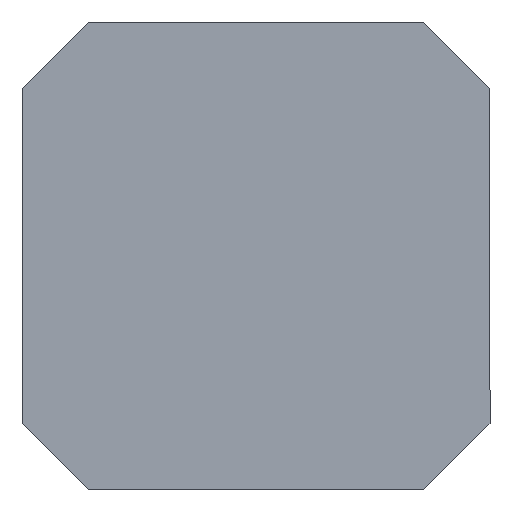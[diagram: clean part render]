
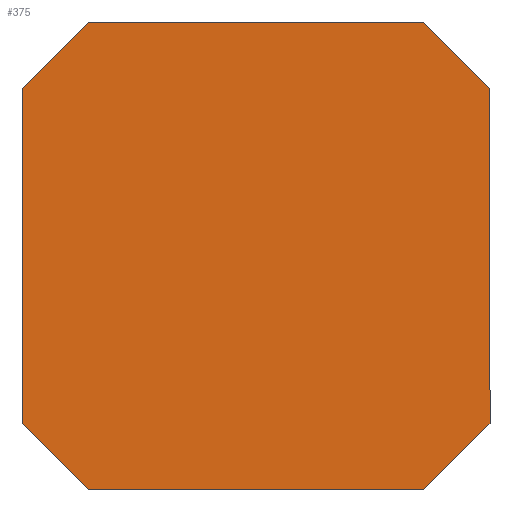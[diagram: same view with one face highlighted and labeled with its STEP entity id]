
A CAD part, front view. The second image highlights one B-rep face of the part: STEP entity #375.
In plain terms, the highlighted planar face has unit normal (0, -1, 0).
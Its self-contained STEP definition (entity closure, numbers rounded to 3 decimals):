
#156 = EDGE_CURVE ( 'NONE', #157, #204, #538, .T. ) ;
#157 = VERTEX_POINT ( 'NONE', #534 ) ;
#204 = VERTEX_POINT ( 'NONE', #584 ) ;
#233 = VERTEX_POINT ( 'NONE', #662 ) ;
#237 = VERTEX_POINT ( 'NONE', #656 ) ;
#258 = EDGE_CURVE ( 'NONE', #233, #237, #684, .T. ) ;
#273 = VERTEX_POINT ( 'NONE', #731 ) ;
#274 = EDGE_CURVE ( 'NONE', #276, #273, #730, .T. ) ;
#276 = VERTEX_POINT ( 'NONE', #726 ) ;
#316 = EDGE_CURVE ( 'NONE', #317, #324, #778, .T. ) ;
#317 = VERTEX_POINT ( 'NONE', #833 ) ;
#324 = VERTEX_POINT ( 'NONE', #822 ) ;
#359 = ORIENTED_EDGE ( 'NONE', *, *, #156, .T. ) ;
#371 = EDGE_LOOP ( 'NONE', ( #372, #395, #359, #411, #413, #414, #381, #382 ) ) ;
#372 = ORIENTED_EDGE ( 'NONE', *, *, #258, .T. ) ;
#375 = ADVANCED_FACE ( 'NONE', ( #876 ), #882, .T. ) ;
#380 = EDGE_CURVE ( 'NONE', #324, #276, #931, .T. ) ;
#381 = ORIENTED_EDGE ( 'NONE', *, *, #274, .T. ) ;
#382 = ORIENTED_EDGE ( 'NONE', *, *, #383, .T. ) ;
#383 = EDGE_CURVE ( 'NONE', #273, #233, #927, .T. ) ;
#395 = ORIENTED_EDGE ( 'NONE', *, *, #407, .T. ) ;
#407 = EDGE_CURVE ( 'NONE', #237, #157, #953, .T. ) ;
#411 = ORIENTED_EDGE ( 'NONE', *, *, #412, .T. ) ;
#412 = EDGE_CURVE ( 'NONE', #204, #317, #948, .T. ) ;
#413 = ORIENTED_EDGE ( 'NONE', *, *, #316, .T. ) ;
#414 = ORIENTED_EDGE ( 'NONE', *, *, #380, .T. ) ;
#534 = CARTESIAN_POINT ( 'NONE',  ( 0., -9., -6. ) ) ;
#535 = DIRECTION ( 'NONE',  ( 0., 0., -1. ) ) ;
#536 = VECTOR ( 'NONE', #535, 1000. ) ;
#537 = CARTESIAN_POINT ( 'NONE',  ( 0., -9., 0. ) ) ;
#538 = LINE ( 'NONE', #537, #536 ) ;
#584 = CARTESIAN_POINT ( 'NONE',  ( 0., -9., -36.3 ) ) ;
#656 = CARTESIAN_POINT ( 'NONE',  ( 6., -9., 0. ) ) ;
#662 = CARTESIAN_POINT ( 'NONE',  ( 36.3, -9., 0. ) ) ;
#681 = DIRECTION ( 'NONE',  ( -1., 0., 0. ) ) ;
#682 = VECTOR ( 'NONE', #681, 1000. ) ;
#683 = CARTESIAN_POINT ( 'NONE',  ( 0., -9., 0. ) ) ;
#684 = LINE ( 'NONE', #683, #682 ) ;
#726 = CARTESIAN_POINT ( 'NONE',  ( 42.3, -9., -36.3 ) ) ;
#727 = DIRECTION ( 'NONE',  ( 0., 0., 1. ) ) ;
#728 = VECTOR ( 'NONE', #727, 1000. ) ;
#729 = CARTESIAN_POINT ( 'NONE',  ( 42.3, -9., 0. ) ) ;
#730 = LINE ( 'NONE', #729, #728 ) ;
#731 = CARTESIAN_POINT ( 'NONE',  ( 42.3, -9., -6. ) ) ;
#775 = DIRECTION ( 'NONE',  ( 1., 0., 0. ) ) ;
#776 = VECTOR ( 'NONE', #775, 1000. ) ;
#777 = CARTESIAN_POINT ( 'NONE',  ( 0., -9., -42.3 ) ) ;
#778 = LINE ( 'NONE', #777, #776 ) ;
#822 = CARTESIAN_POINT ( 'NONE',  ( 36.3, -9., -42.3 ) ) ;
#833 = CARTESIAN_POINT ( 'NONE',  ( 6., -9., -42.3 ) ) ;
#871 = DIRECTION ( 'NONE',  ( 0., 0., -1. ) ) ;
#872 = DIRECTION ( 'NONE',  ( 0., -1., 0. ) ) ;
#873 = CARTESIAN_POINT ( 'NONE',  ( 0., -9., -42.3 ) ) ;
#875 = AXIS2_PLACEMENT_3D ( 'NONE', #873, #872, #871 ) ;
#876 = FACE_OUTER_BOUND ( 'NONE', #371, .T. ) ;
#882 = PLANE ( 'NONE',  #875 ) ;
#924 = DIRECTION ( 'NONE',  ( -0.707, 0., 0.707 ) ) ;
#925 = VECTOR ( 'NONE', #924, 1000. ) ;
#926 = CARTESIAN_POINT ( 'NONE',  ( 39.3, -9., -3. ) ) ;
#927 = LINE ( 'NONE', #926, #925 ) ;
#928 = DIRECTION ( 'NONE',  ( 0.707, 0., 0.707 ) ) ;
#929 = VECTOR ( 'NONE', #928, 1000. ) ;
#930 = CARTESIAN_POINT ( 'NONE',  ( 18.15, -9., -60.45 ) ) ;
#931 = LINE ( 'NONE', #930, #929 ) ;
#940 = DIRECTION ( 'NONE',  ( 0.707, 0., -0.707 ) ) ;
#941 = VECTOR ( 'NONE', #940, 1000. ) ;
#942 = CARTESIAN_POINT ( 'NONE',  ( 3., -9., -39.3 ) ) ;
#948 = LINE ( 'NONE', #942, #941 ) ;
#950 = DIRECTION ( 'NONE',  ( -0.707, 0., -0.707 ) ) ;
#951 = VECTOR ( 'NONE', #950, 1000. ) ;
#952 = CARTESIAN_POINT ( 'NONE',  ( -18.15, -9., -24.15 ) ) ;
#953 = LINE ( 'NONE', #952, #951 ) ;
